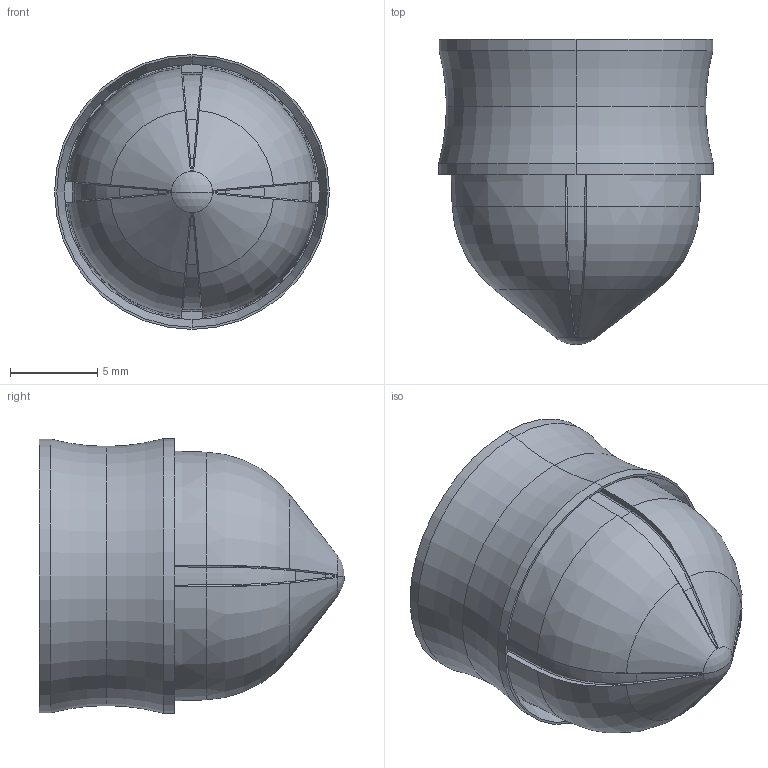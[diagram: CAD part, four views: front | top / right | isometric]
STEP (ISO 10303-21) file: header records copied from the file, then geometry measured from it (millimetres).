
FILE_DESCRIPTION (( 'STEP AP214' ), '1' );
FILE_NAME ('NORDSONEFD-7012023 PISTON O 10CC BE WIPER.STEP', '2020-05-16T04:57:31', ( '' ), ( '' ), 'SwSTEP 2.0', 'SolidWorks 2019', '' );
FILE_SCHEMA (( 'AUTOMOTIVE_DESIGN' ));
Length unit declared in the file: inch
Products named in the file (1): NORDSONEFD-7012023 PISTON O 10CC BE WIPER
Bounding box: 15.74 x 17.47 x 15.74 mm (x, y, z)
Volume: 642.7 mm3; surface area: 1815.6 mm2
Topology: 1 solids, 1 shells, 250 faces, 647 edges, 412 vertices
Faces by surface type: bspline 81, plane 69, cone 35, torus 33, cylinder 28, sphere 4
Entity records: 10895 total; most frequent: CARTESIAN_POINT 5380, ORIENTED_EDGE 1294, DIRECTION 936, EDGE_CURVE 647, VERTEX_POINT 412, AXIS2_PLACEMENT_3D 382, B_SPLINE_CURVE_WITH_KNOTS 263, EDGE_LOOP 263
